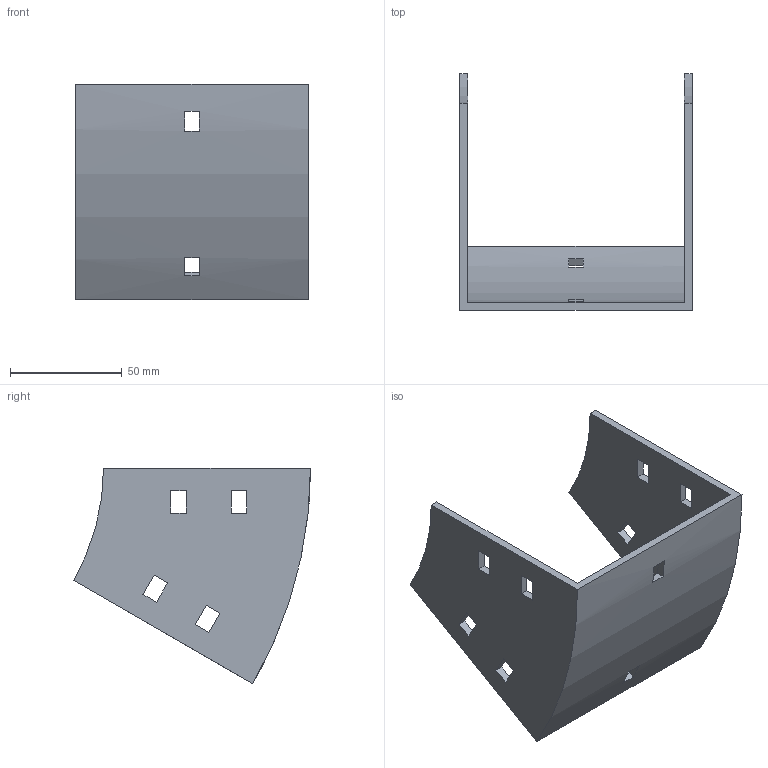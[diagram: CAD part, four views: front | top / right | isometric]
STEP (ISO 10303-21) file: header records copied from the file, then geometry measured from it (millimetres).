
FILE_DESCRIPTION (( 'STEP AP214' ), '1' );
FILE_NAME ('32B1I100.step', '2025-02-21T09:45:06', ( '' ), ( '' ), 'SwSTEP 2.0', 'SolidWorks 2023', '' );
FILE_SCHEMA (( 'AUTOMOTIVE_DESIGN' ));
Length unit declared in the file: millimetre
Products named in the file (1): 32B1I100
Bounding box: 104 x 105.9 x 96.25 mm (x, y, z)
Volume: 81120.1 mm3; surface area: 49871.2 mm2
Topology: 1 solids, 1 shells, 50 faces, 144 edges, 96 vertices
Faces by surface type: plane 46, cylinder 4
Entity records: 1687 total; most frequent: CARTESIAN_POINT 291, ORIENTED_EDGE 288, DIRECTION 262, EDGE_CURVE 144, VECTOR 128, LINE 128, VERTEX_POINT 96, EDGE_LOOP 70
